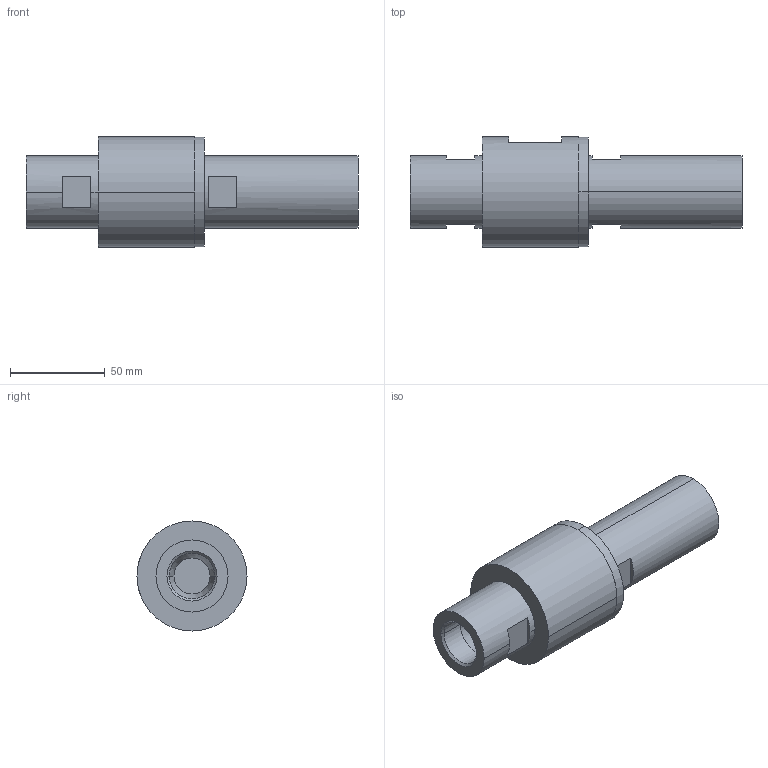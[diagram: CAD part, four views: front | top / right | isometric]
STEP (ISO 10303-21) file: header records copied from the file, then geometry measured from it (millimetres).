
FILE_DESCRIPTION (( 'STEP AP214' ), '1' );
FILE_NAME ('AVP75.STEP', '2025-01-07T19:46:55', ( '' ), ( '' ), 'SwSTEP 2.0', 'SolidWorks 2018', '' );
FILE_SCHEMA (( 'AUTOMOTIVE_DESIGN' ));
Length unit declared in the file: millimetre
Products named in the file (1): AVP75
Bounding box: 175 x 58 x 58 mm (x, y, z)
Volume: 220160.1 mm3; surface area: 44718.8 mm2
Topology: 2 solids, 2 shells, 57 faces, 121 edges, 76 vertices
Faces by surface type: plane 25, cylinder 22, cone 10
Entity records: 1959 total; most frequent: DIRECTION 303, CARTESIAN_POINT 255, ORIENTED_EDGE 242, AXIS2_PLACEMENT_3D 124, EDGE_CURVE 121, VERTEX_POINT 76, EDGE_LOOP 67, CIRCLE 66
